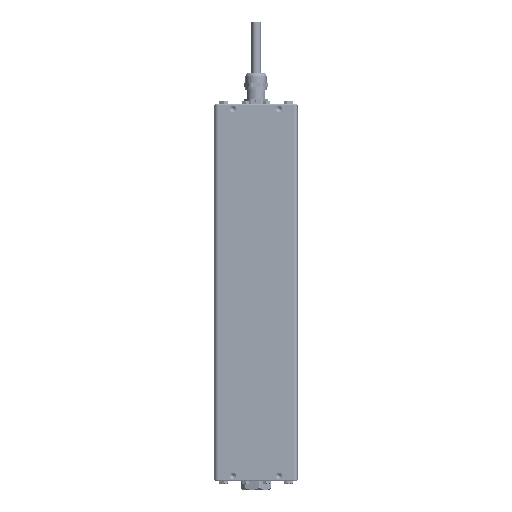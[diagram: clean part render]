
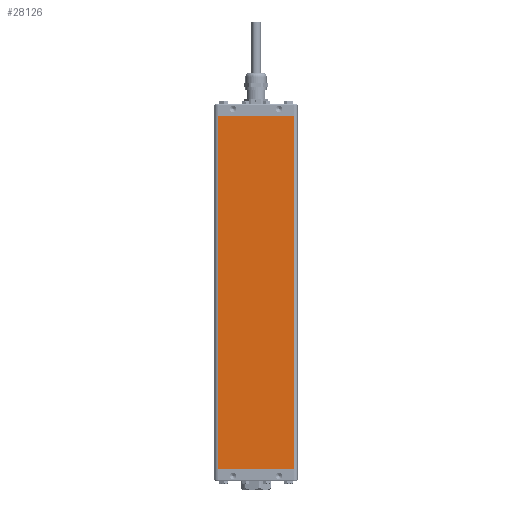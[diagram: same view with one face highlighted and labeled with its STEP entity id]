
A CAD part, front view. The second image highlights one B-rep face of the part: STEP entity #28126.
In plain terms, the highlighted planar face has unit normal (0, -1, 0).
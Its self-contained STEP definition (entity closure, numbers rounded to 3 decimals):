
#503 = VECTOR ( 'NONE', #22640, 1000. ) ;
#803 = VERTEX_POINT ( 'NONE', #12181 ) ;
#1987 = VERTEX_POINT ( 'NONE', #14335 ) ;
#2704 = CARTESIAN_POINT ( 'NONE',  ( 51.6, 0., 0. ) ) ;
#3494 = VECTOR ( 'NONE', #20039, 1000. ) ;
#4440 = LINE ( 'NONE', #9252, #3494 ) ;
#4628 = CARTESIAN_POINT ( 'NONE',  ( 2.4, 0., 0. ) ) ;
#4839 = EDGE_CURVE ( 'NONE', #9979, #30724, #12285, .T. ) ;
#5479 = ORIENTED_EDGE ( 'NONE', *, *, #32253, .T. ) ;
#5828 = VECTOR ( 'NONE', #7451, 1000. ) ;
#6057 = CARTESIAN_POINT ( 'NONE',  ( 2.4, 0., 229.5 ) ) ;
#6227 = DIRECTION ( 'NONE',  ( 0., 1., 0. ) ) ;
#7451 = DIRECTION ( 'NONE',  ( 1., 0., 0. ) ) ;
#9252 = CARTESIAN_POINT ( 'NONE',  ( 2.4, 0., 229.5 ) ) ;
#9288 = EDGE_LOOP ( 'NONE', ( #15246, #15334, #22246, #5479 ) ) ;
#9911 = CARTESIAN_POINT ( 'NONE',  ( 2.4, 0., 0. ) ) ;
#9979 = VERTEX_POINT ( 'NONE', #9911 ) ;
#10047 = VECTOR ( 'NONE', #26278, 1000. ) ;
#12037 = AXIS2_PLACEMENT_3D ( 'NONE', #6057, #6227, #26673 ) ;
#12181 = CARTESIAN_POINT ( 'NONE',  ( 2.4, 0., 229.5 ) ) ;
#12285 = LINE ( 'NONE', #4628, #5828 ) ;
#14335 = CARTESIAN_POINT ( 'NONE',  ( 51.6, 0., 229.5 ) ) ;
#14683 = LINE ( 'NONE', #27649, #503 ) ;
#15246 = ORIENTED_EDGE ( 'NONE', *, *, #4839, .T. ) ;
#15334 = ORIENTED_EDGE ( 'NONE', *, *, #22406, .F. ) ;
#20039 = DIRECTION ( 'NONE',  ( 1., 0., 0. ) ) ;
#21170 = FACE_OUTER_BOUND ( 'NONE', #9288, .T. ) ;
#21617 = CARTESIAN_POINT ( 'NONE',  ( 51.6, 0., 229.5 ) ) ;
#22246 = ORIENTED_EDGE ( 'NONE', *, *, #27887, .F. ) ;
#22406 = EDGE_CURVE ( 'NONE', #1987, #30724, #29643, .T. ) ;
#22640 = DIRECTION ( 'NONE',  ( 0., 0., -1. ) ) ;
#26278 = DIRECTION ( 'NONE',  ( 0., 0., -1. ) ) ;
#26673 = DIRECTION ( 'NONE',  ( 0., 0., 1. ) ) ;
#27649 = CARTESIAN_POINT ( 'NONE',  ( 2.4, 0., 229.5 ) ) ;
#27887 = EDGE_CURVE ( 'NONE', #803, #1987, #4440, .T. ) ;
#28126 = ADVANCED_FACE ( 'NONE', ( #21170 ), #31396, .F. ) ;
#29643 = LINE ( 'NONE', #21617, #10047 ) ;
#30724 = VERTEX_POINT ( 'NONE', #2704 ) ;
#31396 = PLANE ( 'NONE',  #12037 ) ;
#32253 = EDGE_CURVE ( 'NONE', #803, #9979, #14683, .T. ) ;
